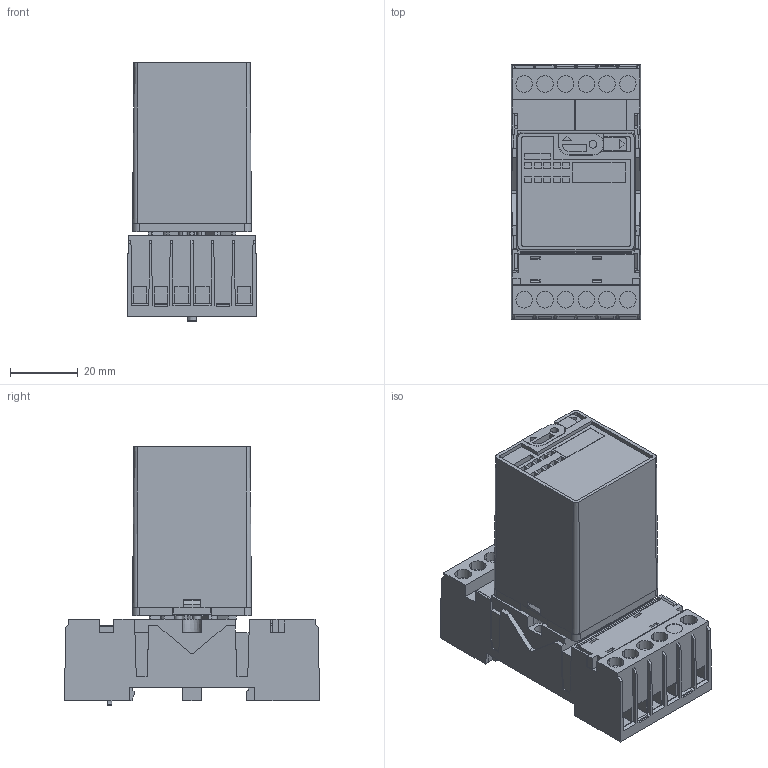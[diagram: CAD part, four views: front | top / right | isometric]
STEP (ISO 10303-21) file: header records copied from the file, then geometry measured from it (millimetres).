
FILE_DESCRIPTION (( 'STEP AP214' ), '1' );
FILE_NAME ('C31xR_C32xR_plus_S3-MR.STEP', '2024-04-04T09:19:04', ( '' ), ( '' ), 'SwSTEP 2.0', 'SolidWorks 2022', '' );
FILE_SCHEMA (( 'AUTOMOTIVE_DESIGN' ));
Length unit declared in the file: millimetre
Products named in the file (1): C31xR_C32xR_plus_S3-MR
Bounding box: 38 x 75 x 76 mm (x, y, z)
Volume: 108660.5 mm3; surface area: 32438.4 mm2
Topology: 1 solids, 31 shells, 1382 faces, 3766 edges, 2479 vertices
Faces by surface type: plane 1114, cylinder 207, cone 56, bspline 5
Entity records: 57304 total; most frequent: CARTESIAN_POINT 8773, ORIENTED_EDGE 7530, DIRECTION 6644, EDGE_CURVE 3765, VECTOR 3044, LINE 3044, VERTEX_POINT 2479, AXIS2_PLACEMENT_3D 1800
